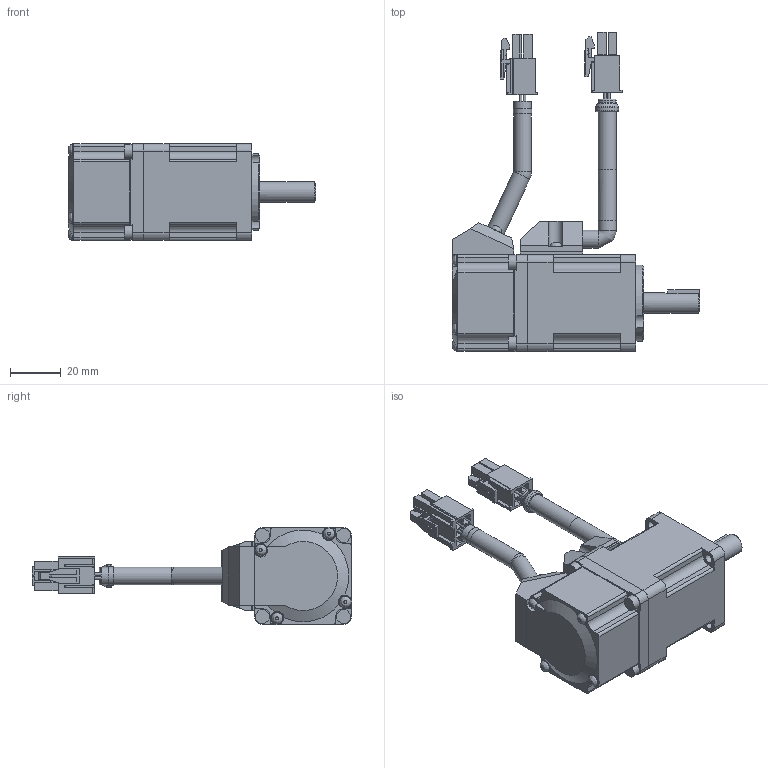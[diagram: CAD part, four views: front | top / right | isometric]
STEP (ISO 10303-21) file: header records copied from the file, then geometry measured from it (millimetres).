
FILE_DESCRIPTION( ( 'STEP AP203' ), '1' );
FILE_NAME( '//expscmdclustefs.cadenas.external/client_exchange/iodir/jobs/output/wkb71152839_no0/STEP/_MSMD5AZP1SA_2_03.stp', ' ', ( ' ' ), ( ' ' ), 'PSStep 15.0.47', 'PARTsolutions', ' ' );
FILE_SCHEMA( ( 'CONFIG_CONTROL_DESIGN' ) );
Length unit declared in the file: millimetre
Products named in the file (8):  MSMD5AZP1SA; HI_Motor--5-APBB; HI_Motoplug--5A; HI_Cabel Motoplug--5P; HI_Motor Connector; HI_Encoder--5P; HI_Cabel  brake--5-P-4; HI_2500 p/r Connector
Assembly tree (7 placements, depth 2):
   MSMD5AZP1SA
    HI_Motor--5-APBB
    HI_Motoplug--5A
    HI_Cabel Motoplug--5P
    HI_Motor Connector
    HI_Encoder--5P
    HI_Cabel  brake--5-P-4
    HI_2500 p/r Connector
Bounding box: 97.03 x 125.3 x 38.2 mm (x, y, z)
Volume: 118870.8 mm3; surface area: 28878.4 mm2
Topology: 7 solids, 7 shells, 654 faces, 1660 edges, 1082 vertices
Faces by surface type: plane 469, cylinder 154, cone 17, bspline 8, torus 6
Full cylindrical faces by diameter (mm): 1 x8, 1.82 x4, 2.459 x1, 2.6 x10, 3.4 x4, 4.5 x4, 4.6 x3, 5 x4, 5.5 x7, 7 x7, 7.2 x1, 8 x1, 9 x1, 12.5 x1, 16.5 x1
Entity records: 19523 total; most frequent: CARTESIAN_POINT 3687, DIRECTION 3192, ORIENTED_EDGE 3112, EDGE_CURVE 1556, LINE 1176, VECTOR 1176, VERTEX_POINT 1061, AXIS2_PLACEMENT_3D 1008
